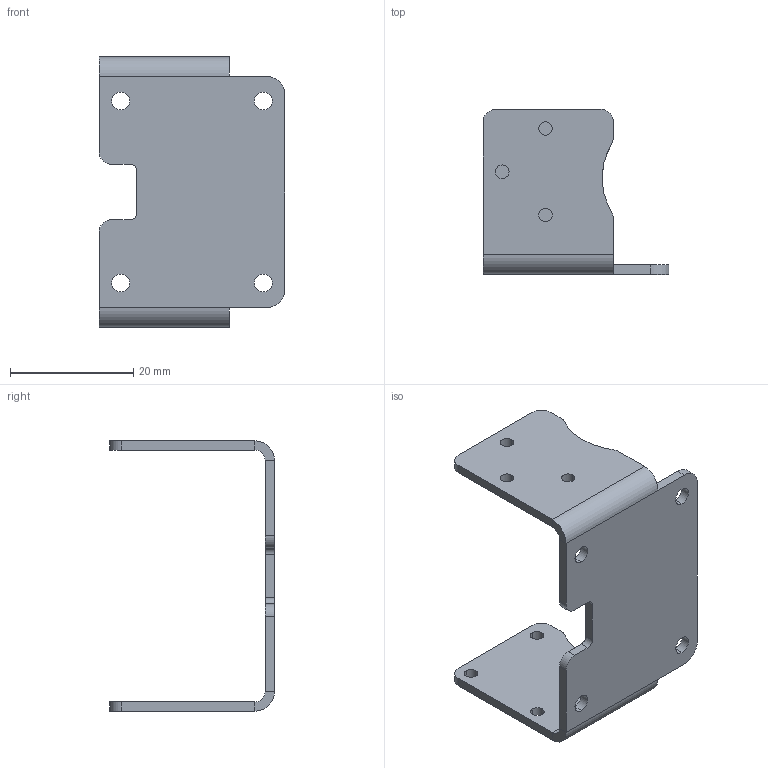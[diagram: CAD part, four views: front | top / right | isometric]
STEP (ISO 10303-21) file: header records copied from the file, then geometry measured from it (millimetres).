
FILE_DESCRIPTION (( 'STEP AP214' ), '1' );
FILE_NAME ('30x Bracket A.STEP', '2024-02-28T20:33:02', ( '' ), ( '' ), 'SwSTEP 2.0', 'SolidWorks 2023', '' );
FILE_SCHEMA (( 'AUTOMOTIVE_DESIGN' ));
Length unit declared in the file: millimetre
Products named in the file (1): 30x Bracket A
Bounding box: 30.1 x 26.7 x 43.8 mm (x, y, z)
Volume: 3204 mm3; surface area: 4773.2 mm2
Topology: 1 solids, 1 shells, 66 faces, 180 edges, 116 vertices
Faces by surface type: cylinder 42, plane 24
Entity records: 2179 total; most frequent: DIRECTION 398, CARTESIAN_POINT 363, ORIENTED_EDGE 360, EDGE_CURVE 180, AXIS2_PLACEMENT_3D 151, VERTEX_POINT 116, LINE 96, VECTOR 96
